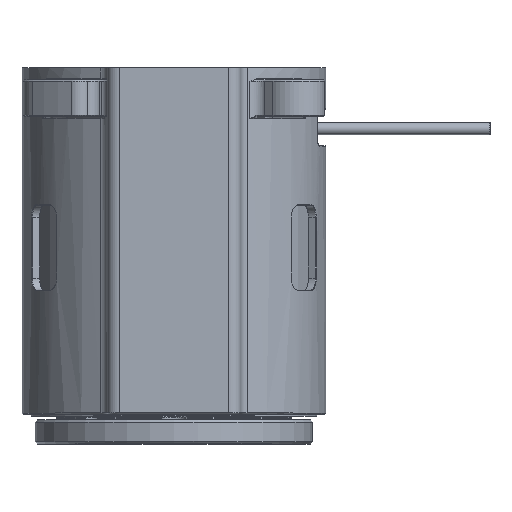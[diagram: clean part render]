
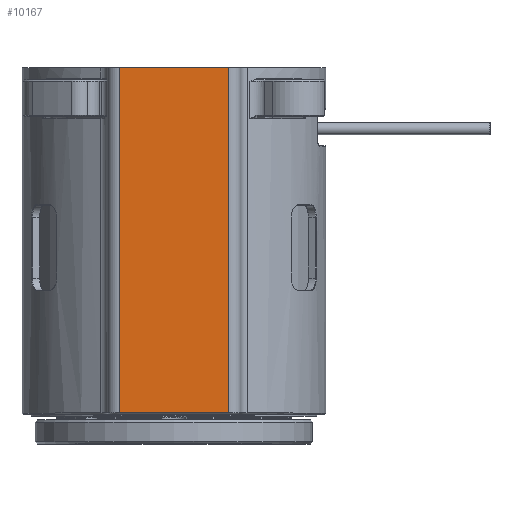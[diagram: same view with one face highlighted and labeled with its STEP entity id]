
A CAD part, top view. The second image highlights one B-rep face of the part: STEP entity #10167.
In plain terms, the highlighted planar face has unit normal (0, 0, 1).
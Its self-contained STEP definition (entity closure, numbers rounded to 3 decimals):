
#621=DIRECTION('',(0.,1.,0.));
#622=VECTOR('',#621,28.4);
#623=CARTESIAN_POINT('',(4.5,0.1,16.));
#624=LINE('',#623,#622);
#629=DIRECTION('',(-1.,0.,0.));
#630=VECTOR('',#629,9.);
#631=CARTESIAN_POINT('',(4.5,0.1,16.));
#632=LINE('',#631,#630);
#633=DIRECTION('',(1.,0.,0.));
#634=VECTOR('',#633,9.);
#635=CARTESIAN_POINT('',(-4.5,28.5,16.));
#636=LINE('',#635,#634);
#641=DIRECTION('',(0.,-1.,0.));
#642=VECTOR('',#641,28.4);
#643=CARTESIAN_POINT('',(-4.5,28.5,16.));
#644=LINE('',#643,#642);
#8461=CARTESIAN_POINT('',(4.5,0.1,16.));
#8462=VERTEX_POINT('',#8461);
#8463=CARTESIAN_POINT('',(-4.5,0.1,
16.));
#8464=VERTEX_POINT('',#8463);
#8651=CARTESIAN_POINT('',(4.5,28.5,16.));
#8653=VERTEX_POINT('',#8651);
#8654=CARTESIAN_POINT('',(-4.5,28.5,16.));
#8655=VERTEX_POINT('',#8654);
#10155=CARTESIAN_POINT('',(-5.5,0.,16.));
#10156=DIRECTION('',(0.,0.,1.));
#10157=DIRECTION('',(1.,0.,0.));
#10158=AXIS2_PLACEMENT_3D('',#10155,#10156,#10157);
#10159=PLANE('',#10158);
#10160=ORIENTED_EDGE('',*,*,#9717,.T.);
#10162=ORIENTED_EDGE('',*,*,#10161,.F.);
#10163=ORIENTED_EDGE('',*,*,#10109,.T.);
#10164=ORIENTED_EDGE('',*,*,#10147,.F.);
#10165=EDGE_LOOP('',(#10160,#10162,#10163,#10164));
#10166=FACE_OUTER_BOUND('',#10165,.F.);
#10167=ADVANCED_FACE('',(#10166),#10159,.T.);
#9717=EDGE_CURVE('',#8462,#8464,#632,.T.);
#10109=EDGE_CURVE('',#8655,#8653,#636,.T.);
#10147=EDGE_CURVE('',#8462,#8653,#624,.T.);
#10161=EDGE_CURVE('',#8655,#8464,#644,.T.);
